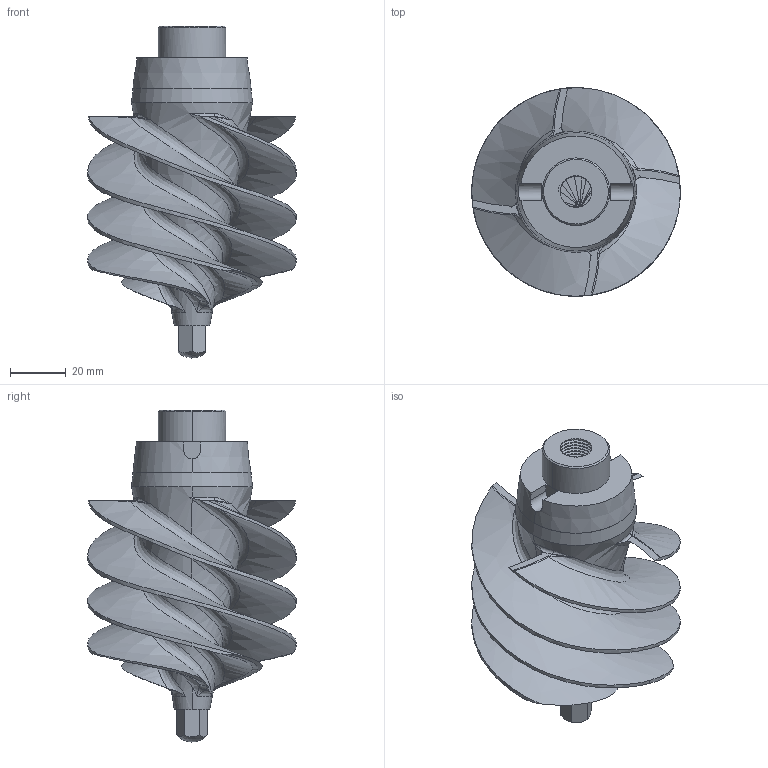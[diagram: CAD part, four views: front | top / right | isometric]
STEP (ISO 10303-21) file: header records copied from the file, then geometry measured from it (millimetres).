
FILE_DESCRIPTION(('STEP AP203'), '1');
FILE_NAME('鴈劌膷闉 蜦襜碭', '', ('UNSPECIFIED'), ('UNSPECIFIED'), 'C3D Converter', 'C3D Toolkit', '');
FILE_SCHEMA(('CONFIG_CONTROL_DESIGN'));
Length unit declared in the file: millimetre
Products named in the file (1): индуктор  готово
Bounding box: 74.5 x 74.5 x 118.6 mm (x, y, z)
Volume: 100887.4 mm3; surface area: 43382.6 mm2
Topology: 1 solids, 1 shells, 138 faces, 536 edges, 390 vertices
Faces by surface type: bspline 52, cylinder 44, plane 22, cone 11, torus 9
Entity records: 54145 total; most frequent: CARTESIAN_POINT 49484, ORIENTED_EDGE 1040, EDGE_CURVE 520, B_SPLINE_CURVE_WITH_KNOTS 396, VERTEX_POINT 390, DIRECTION 333, FACE_BOUND 144, EDGE_LOOP 144
